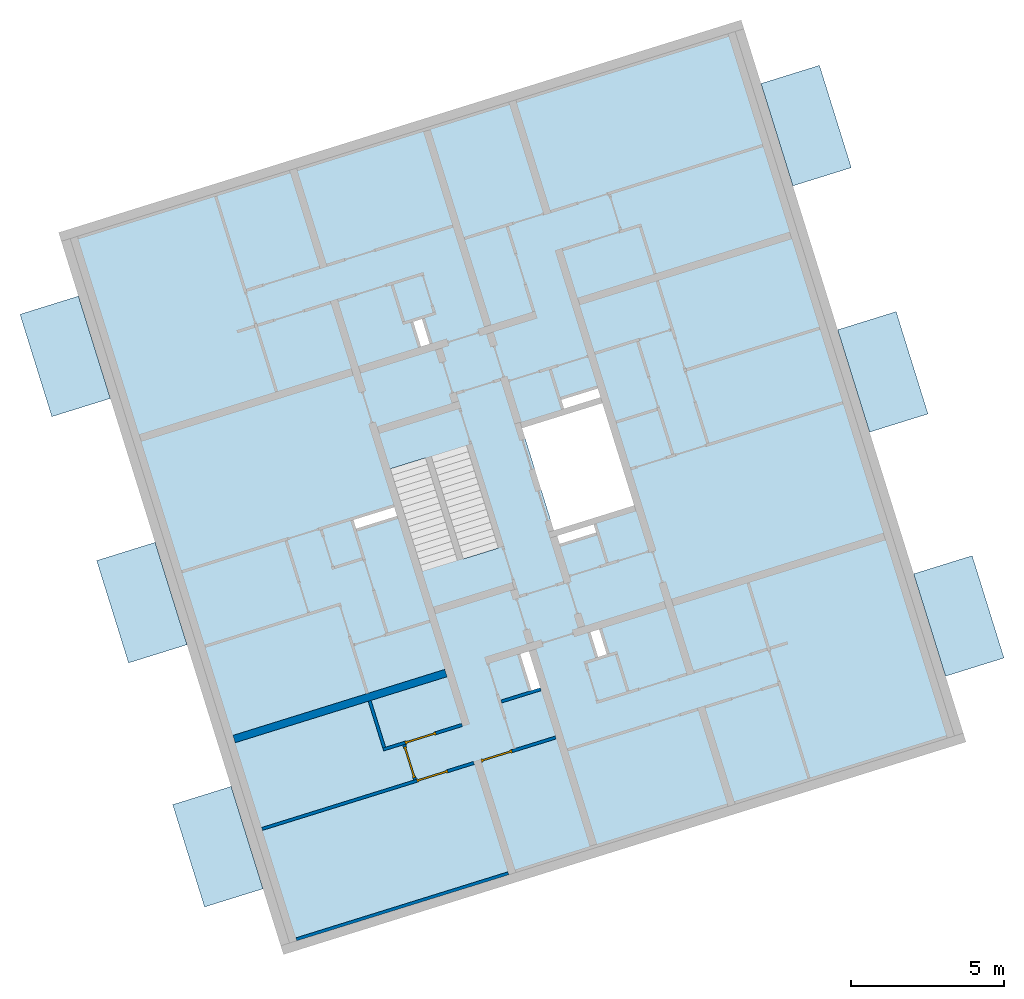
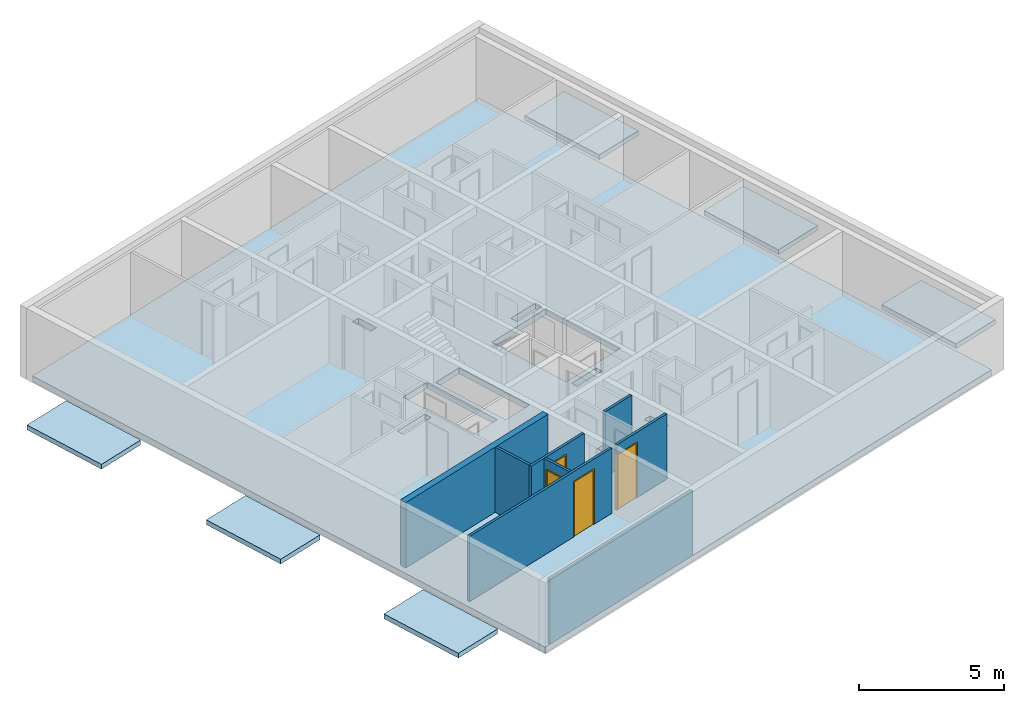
# One storey, part 1 of 9: 8 walls, 7 slabs, 4 doors, 13 openings.
"""IFC4 building model written with IfcOpenShell, lengths in metres."""

from ifc_helpers import new_model, entity, si_unit, converted_unit, direction, frame, origin, place, context, subcontext, project, spatial, indexed_curve, outline, extrude, polygons, source, transform, mapped, material, constituent, constituent_set, type_object, type_shapes, element, fill, save


model = new_model("IFC4")

# Units and contexts
model_context = context("Model", 3, precision=1e-05, world=origin(), true_north=direction((6.12323399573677e-17, 1.0)))
body_context = subcontext(model_context, "Body", "Model", "MODEL_VIEW")
ifc_project = project(units=[si_unit("LENGTHUNIT", "METRE"), si_unit("AREAUNIT", "SQUARE_METRE"), converted_unit("PLANEANGLEUNIT", "DEGREE", entity("IfcPlaneAngleMeasure", 0.0174532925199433), si_unit("PLANEANGLEUNIT", "RADIAN"), dimensions=[0, 0, 0, 0, 0, 0, 0]), si_unit("VOLUMEUNIT", "CUBIC_METRE")], contexts=[model_context])

# Site, building, storey
site_placement = place(None, frame((13.1347999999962, 11.9886000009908, 0.0), z_axis=(0.0, 0.0, 1.0), x_axis=(0.954770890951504, 0.297342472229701, 0.0)))
site = spatial("IfcSite", under=ifc_project, at=site_placement, Name="Schiehaven", CompositionType="ELEMENT")
building_placement = place(site_placement, origin())
building = spatial("IfcBuilding", under=site, at=building_placement, Name="VORM huis", CompositionType="ELEMENT")
storey_placement = place(building_placement, frame((0.0, 0.0, 18.9)))
storey = spatial("IfcBuildingStorey", under=building, at=storey_placement, Name="06 zesde verdieping", CompositionType="ELEMENT", Elevation=18.9)

# Slab, openings
ifc_material_1 = material(Name="beton_gewapend_ihw", Category="Miscellaneous")
slab_type_1 = type_object("IfcSlabType", Name="Floor:28_FL_skelet_vloer 250mm", PredefinedType="FLOOR", material=ifc_material_1)
slab_1_placement = place(storey_placement, origin())
slab_1 = element("IfcSlab", 1, at=slab_1_placement, inside=storey, type_object=slab_type_1, material=ifc_material_1, Name="Constructieve vloer", ObjectType="Vloer", PredefinedType="FLOOR", context=body_context, shape_type="SweptSolid", body=[
    extrude(outline(indexed_curve([(-12.0499999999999, -11.375), (12.05, -11.375), (12.0499999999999, 11.375), (-12.05, 11.375), (-12.0499999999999, -11.375)], self_intersect=False), holes=[indexed_curve([(1.75000000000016, 3.6250000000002), (1.75000000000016, 0.875000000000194), (-1.74999999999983, 0.875000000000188), (-1.74999999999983, 3.6250000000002), (1.75000000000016, 3.6250000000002)], self_intersect=False), indexed_curve([(-1.53999999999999, -2.22499999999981), (-1.53999999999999, -1.02499999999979), (1.76000000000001, -1.02499999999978), (1.76000000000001, -2.2249999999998), (-1.53999999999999, -2.22499999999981)], self_intersect=False), indexed_curve([(1.54000000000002, -3.62499999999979), (-1.75999999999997, -3.62499999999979), (-1.75999999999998, -2.42499999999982), (1.54000000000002, -2.42499999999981), (1.54000000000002, -3.62499999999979)], self_intersect=False), indexed_curve([(5.27499999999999, 1.02499999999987), (5.27499999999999, 1.32499999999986), (6.12499999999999, 1.32499999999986), (6.125, 1.02499999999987), (5.27499999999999, 1.02499999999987)], self_intersect=False), indexed_curve([(-6.12500000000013, -1.18400000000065), (-5.27500000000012, -1.18400000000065), (-5.27500000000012, -1.48400000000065), (-6.12500000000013, -1.48400000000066), (-6.12500000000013, -1.18400000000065)], self_intersect=False), indexed_curve([(5.27500000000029, -1.07500000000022), (6.52500000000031, -1.07500000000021), (6.52500000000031, -1.37500000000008), (5.27500000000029, -1.37500000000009), (5.27500000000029, -1.07500000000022)], self_intersect=False), indexed_curve([(-0.524999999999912, -3.87283572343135), (-0.224999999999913, -3.87283572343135), (-0.224999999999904, -5.27500000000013), (-0.524999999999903, -5.27500000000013), (-0.524999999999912, -3.87283572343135)], self_intersect=False), indexed_curve([(1.95000000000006, 2.17499999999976), (2.22500000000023, 2.17499999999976), (2.22500000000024, 0.924999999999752), (1.95000000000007, 0.92499999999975), (1.95000000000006, 2.17499999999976)], self_intersect=False), indexed_curve([(-2.25000000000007, 3.62499999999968), (-1.94999999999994, 3.62499999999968), (-1.94999999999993, 2.37499999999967), (-2.25000000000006, 2.37499999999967), (-2.25000000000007, 3.62499999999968)], self_intersect=False)]), frame((68.7500000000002, 17.0499999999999, -0.249999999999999), z_axis=(0.0, 0.0, 1.0), x_axis=(0.0, -1.0, 0.0)), (0.0, 0.0, 1.0), 0.249999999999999),
])
opening_1_placement = place(slab_1_placement, origin())
element("IfcOpeningElement", 2, at=opening_1_placement, cuts=slab_1, Name="Constructieve vloer", PredefinedType="OPENING", context=body_context, shape_type="SweptSolid", body=[
    extrude(outline(indexed_curve([(-1.75, -1.375), (1.75, -1.375), (1.75, 1.37500000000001), (-1.75, 1.37500000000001), (-1.75, -1.375)], self_intersect=False)), frame((71.0, 17.0499999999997, -0.249999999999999), z_axis=(0.0, 0.0, 1.0), x_axis=(0.0, 1.0, 0.0)), (0.0, 0.0, 1.0), 0.249999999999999),
])
opening_2_placement = place(slab_1_placement, origin())
element("IfcOpeningElement", 3, at=opening_2_placement, cuts=slab_1, Name="Constructieve vloer", PredefinedType="OPENING", context=body_context, shape_type="SweptSolid", body=[
    extrude(outline(indexed_curve([(-1.65, -0.600000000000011), (1.65000000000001, -0.600000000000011), (1.65000000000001, 0.600000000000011), (-1.65, 0.600000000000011), (-1.65, -0.600000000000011)], self_intersect=False)), frame((67.1250000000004, 16.9399999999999, -0.249999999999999), z_axis=(0.0, 0.0, 1.0), x_axis=(0.0, -1.0, 0.0)), (0.0, 0.0, 1.0), 0.249999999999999),
])
opening_3_placement = place(slab_1_placement, origin())
element("IfcOpeningElement", 4, at=opening_3_placement, cuts=slab_1, Name="Constructieve vloer", PredefinedType="OPENING", context=body_context, shape_type="SweptSolid", body=[
    extrude(outline(indexed_curve([(-0.425000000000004, -0.150000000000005), (0.425000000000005, -0.150000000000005), (0.425000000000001, 0.149999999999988), (-0.425000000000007, 0.149999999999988), (-0.425000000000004, -0.150000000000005)], self_intersect=False)), frame((69.925, 11.3499999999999, -0.249999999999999), z_axis=(0.0, 0.0, 1.0), x_axis=(0.0, -1.0, 0.0)), (0.0, 0.0, 1.0), 0.249999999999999),
])
opening_4_placement = place(slab_1_placement, origin())
element("IfcOpeningElement", 5, at=opening_4_placement, cuts=slab_1, Name="Constructieve vloer", PredefinedType="OPENING", context=body_context, shape_type="SweptSolid", body=[
    extrude(outline(indexed_curve([(-0.150000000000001, -0.425000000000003), (0.150000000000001, -0.425000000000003), (0.150000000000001, 0.425000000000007), (-0.150000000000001, 0.425000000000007), (-0.150000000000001, -0.425000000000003)], self_intersect=False)), frame((67.4159999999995, 22.7500000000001, -0.249999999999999), z_axis=(0.0, 0.0, 1.0), x_axis=(-1.0, 0.0, 0.0)), (0.0, 0.0, 1.0), 0.249999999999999),
])
opening_5_placement = place(slab_1_placement, origin())
element("IfcOpeningElement", 6, at=opening_5_placement, cuts=slab_1, Name="Constructieve vloer", PredefinedType="OPENING", context=body_context, shape_type="SweptSolid", body=[
    extrude(outline(indexed_curve([(-0.14999999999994, -0.625000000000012), (0.149999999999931, -0.625000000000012), (0.149999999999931, 0.625000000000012), (-0.14999999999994, 0.625000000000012), (-0.14999999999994, -0.625000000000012)], self_intersect=False)), frame((67.525, 11.1499999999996, -0.249999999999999), z_axis=(0.0, 0.0, 1.0), x_axis=(-1.0, 0.0, 0.0)), (0.0, 0.0, 1.0), 0.249999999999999),
])
opening_6_placement = place(slab_1_placement, origin())
element("IfcOpeningElement", 7, at=opening_6_placement, cuts=slab_1, Name="Constructieve vloer", PredefinedType="OPENING", context=body_context, shape_type="SweptSolid", body=[
    extrude(outline(indexed_curve([(-0.701082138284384, -0.150000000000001), (0.701082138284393, -0.150000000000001), (0.701082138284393, 0.149999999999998), (-0.701082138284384, 0.149999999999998), (-0.701082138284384, -0.150000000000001)], self_intersect=False)), frame((64.1760821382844, 17.4249999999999, -0.249999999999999), z_axis=(0.0, 0.0, 1.0), x_axis=(-1.0, 0.0, 0.0)), (0.0, 0.0, 1.0), 0.249999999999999),
])
opening_7_placement = place(slab_1_placement, origin())
element("IfcOpeningElement", 8, at=opening_7_placement, cuts=slab_1, Name="Constructieve vloer", PredefinedType="OPENING", context=body_context, shape_type="SweptSolid", body=[
    extrude(outline(indexed_curve([(-0.625000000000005, -0.137500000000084), (0.625000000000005, -0.137500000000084), (0.625000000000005, 0.137500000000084), (-0.625000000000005, 0.137500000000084), (-0.625000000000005, -0.137500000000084)], self_intersect=False)), frame((70.2999999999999, 14.9624999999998, -0.249999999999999), z_axis=(0.0, 0.0, 1.0), x_axis=(-1.0, 0.0, 0.0)), (0.0, 0.0, 1.0), 0.249999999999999),
])
opening_8_placement = place(slab_1_placement, origin())
element("IfcOpeningElement", 9, at=opening_8_placement, cuts=slab_1, Name="Constructieve vloer", PredefinedType="OPENING", context=body_context, shape_type="SweptSolid", body=[
    extrude(outline(indexed_curve([(-0.625000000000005, -0.150000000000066), (0.625000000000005, -0.150000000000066), (0.625000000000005, 0.150000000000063), (-0.625000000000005, 0.150000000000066), (-0.625000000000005, -0.150000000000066)], self_intersect=False)), frame((71.7499999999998, 19.1499999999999, -0.249999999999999), z_axis=(0.0, 0.0, 1.0), x_axis=(-1.0, 0.0, 0.0)), (0.0, 0.0, 1.0), 0.249999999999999),
])

# Slabs
ifc_material_2 = material(Name="beton_gewapend_prefab-element", Category="Miscellaneous")
slab_type_2 = type_object("IfcSlabType", Name="Floor:23_FL_skelet_balkon 200mm", PredefinedType="FLOOR", material=ifc_material_2)
slab_2_placement = place(storey_placement, origin())
element("IfcSlab", 10, at=slab_2_placement, inside=storey, type_object=slab_type_2, material=ifc_material_2, Name="Balkonvloer", ObjectType="Vloer", PredefinedType="FLOOR", context=body_context, shape_type="SweptSolid", body=[
    extrude(outline(indexed_curve([(-1.75000000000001, -0.999999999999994), (1.75, -0.999999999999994), (1.75000000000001, 1.0), (-1.75, 0.999999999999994), (-1.75000000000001, -0.999999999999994)], self_intersect=False)), frame((56.0750000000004, 25.4750000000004, 0.0), z_axis=(0.0, 0.0, -1.0), x_axis=(0.0, 1.0, 0.0)), (0.0, 0.0, 1.0), 0.2),
])
slab_3_placement = place(storey_placement, origin())
element("IfcSlab", 11, at=slab_3_placement, inside=storey, type_object=slab_type_2, material=ifc_material_2, Name="Balkonvloer", ObjectType="Vloer", PredefinedType="FLOOR", context=body_context, shape_type="SweptSolid", body=[
    extrude(outline(indexed_curve([(-1.75000000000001, -0.999999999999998), (1.75000000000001, -0.999999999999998), (1.75000000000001, 0.999999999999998), (-1.75000000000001, 0.999999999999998), (-1.75000000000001, -0.999999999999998)], self_intersect=False)), frame((56.0750000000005, 8.69999999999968, 0.0), z_axis=(0.0, 0.0, -1.0), x_axis=(0.0, 1.0, 0.0)), (0.0, 0.0, 1.0), 0.2),
])
slab_4_placement = place(storey_placement, origin())
element("IfcSlab", 12, at=slab_4_placement, inside=storey, type_object=slab_type_2, material=ifc_material_2, Name="Balkonvloer", ObjectType="Vloer", PredefinedType="FLOOR", context=body_context, shape_type="SweptSolid", body=[
    extrude(outline(indexed_curve([(-1.75000000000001, -1.0), (1.75000000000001, -1.0), (1.75000000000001, 0.999999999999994), (-1.75000000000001, 0.999999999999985), (-1.75000000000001, -1.0)], self_intersect=False)), frame((56.0750000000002, 17.0499999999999, 0.0), z_axis=(0.0, 0.0, -1.0), x_axis=(0.0, 1.0, 0.0)), (0.0, 0.0, 1.0), 0.2),
])
slab_5_placement = place(storey_placement, origin())
element("IfcSlab", 13, at=slab_5_placement, inside=storey, type_object=slab_type_2, material=ifc_material_2, Name="Balkonvloer", ObjectType="Vloer", PredefinedType="FLOOR", context=body_context, shape_type="SweptSolid", body=[
    extrude(outline(indexed_curve([(-1.75000000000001, -0.999999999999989), (1.75000000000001, -0.999999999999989), (1.75, 1.00000000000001), (-1.75000000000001, 0.999999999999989), (-1.75000000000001, -0.999999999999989)], self_intersect=False)), frame((81.4249999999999, 25.4750000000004, 0.0), z_axis=(0.0, 0.0, -1.0), x_axis=(0.0, 1.0, 0.0)), (0.0, 0.0, 1.0), 0.2),
])
slab_6_placement = place(storey_placement, origin())
element("IfcSlab", 14, at=slab_6_placement, inside=storey, type_object=slab_type_2, material=ifc_material_2, Name="Balkonvloer", ObjectType="Vloer", PredefinedType="FLOOR", context=body_context, shape_type="SweptSolid", body=[
    extrude(outline(indexed_curve([(-1.74999999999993, -0.999999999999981), (1.75000000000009, -0.999999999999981), (1.74999999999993, 0.999999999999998), (-1.75000000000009, 0.999999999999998), (-1.74999999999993, -0.999999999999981)], self_intersect=False)), frame((81.4250000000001, 8.69999999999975, 0.0), z_axis=(0.0, 0.0, -1.0), x_axis=(0.0, 1.0, 0.0)), (0.0, 0.0, 1.0), 0.2),
])
slab_7_placement = place(storey_placement, origin())
element("IfcSlab", 15, at=slab_7_placement, inside=storey, type_object=slab_type_2, material=ifc_material_2, Name="Balkonvloer", ObjectType="Vloer", PredefinedType="FLOOR", context=body_context, shape_type="SweptSolid", body=[
    extrude(outline(indexed_curve([(-1.74999999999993, -0.999999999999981), (1.75000000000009, -0.999999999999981), (1.74999999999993, 0.999999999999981), (-1.75000000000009, 0.999999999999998), (-1.74999999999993, -0.999999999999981)], self_intersect=False)), frame((81.4250000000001, 17.0499999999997, 0.0), z_axis=(0.0, 0.0, -1.0), x_axis=(0.0, 1.0, 0.0)), (0.0, 0.0, 1.0), 0.2),
])

# Walls
ifc_material_3 = material(Name="ntb_ntb_ntb", Category="Miscellaneous")
wall_type_1 = type_object("IfcWallType", Name="Basic Wall:21_WA_gevel_binnenspouwwand 100mm_gen", PredefinedType="STANDARD")
wall_1_placement = place(storey_placement, frame((64.8750000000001, 5.0499999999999, 0.0), z_axis=(0.0, 0.0, 1.0), x_axis=(-1.0, 0.0, 0.0)))
element("IfcWall", 16, at=wall_1_placement, inside=storey, type_object=wall_type_1, material=ifc_material_3, Name="Binnenspouwblad", ObjectType="Wand", PredefinedType="NOTDEFINED", context=body_context, shape_type="SweptSolid", body=[
    extrude(outline(indexed_curve([(7.24999999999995, 0.0500000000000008), (5.48749790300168e-18, 0.0500000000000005), (-5.48749790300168e-18, -0.0500000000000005), (7.24999999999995, -0.0500000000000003), (7.24999999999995, 0.0500000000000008)], self_intersect=False)), origin(), (0.0, 0.0, 1.0), 2.75),
])
wall_type_2 = type_object("IfcWallType", Name="Basic Wall:22_WA_afbouw_binnenwand 250mm_gen", PredefinedType="STANDARD")
wall_2_placement = place(storey_placement, frame((64.8750000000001, 11.8999999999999, 0.0), z_axis=(0.0, 0.0, 1.0), x_axis=(-1.0, 0.0, 0.0)))
element("IfcWall", 17, at=wall_2_placement, inside=storey, type_object=wall_type_2, material=ifc_material_3, Name="Binnenwand", ObjectType="Wand", PredefinedType="NOTDEFINED", context=body_context, shape_type="SweptSolid", body=[
    extrude(outline(indexed_curve([(7.24999999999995, 0.125000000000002), (-2.56336468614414e-16, 0.125), (2.56336468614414e-16, -0.125), (7.24999999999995, -0.124999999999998), (7.24999999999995, 0.125000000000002)], self_intersect=False)), origin(), (0.0, 0.0, 1.0), 2.75),
])
wall_type_3 = type_object("IfcWallType", Name="Basic Wall:22_WA_afbouw_binnenwand 100mm_gen", PredefinedType="STANDARD")
wall_3_placement = place(storey_placement, frame((67.6749999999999, 10.4749999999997, 0.0), z_axis=(0.0, 0.0, 1.0), x_axis=(-1.0, 0.0, 0.0)))
element("IfcWall", 18, at=wall_3_placement, inside=storey, type_object=wall_type_3, material=ifc_material_3, Name="Binnenwand", ObjectType="Wand", PredefinedType="NOTDEFINED", context=body_context, shape_type="SweptSolid", body=[
    extrude(outline(indexed_curve([(1.34999999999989, 0.0499999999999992), (8.93476767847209e-18, 0.0499999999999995), (-8.93476767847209e-18, -0.0499999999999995), (1.34999999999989, -0.0499999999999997), (1.34999999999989, 0.0499999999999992)], self_intersect=False)), origin(), (0.0, 0.0, 1.0), 2.75),
])

# Wall, opening, door
wall_4_placement = place(storey_placement, frame((62.175, 10.1249999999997, 0.0)))
wall_4 = element("IfcWall", 19, at=wall_4_placement, inside=storey, type_object=wall_type_3, material=ifc_material_3, Name="Binnenwand", ObjectType="Wand", PredefinedType="NOTDEFINED", context=body_context, shape_type="Tessellation", body=[
    polygons([(2.96937021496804e-15, -0.0499999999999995, 2.16573425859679e-15), (0.650000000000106, -0.0499999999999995, 2.16573425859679e-15), (0.750000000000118, -0.0499999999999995, 2.16573425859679e-15), (0.750000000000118, -0.0499999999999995, 2.34999999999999), (1.80000000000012, -0.0499999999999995, 2.34999999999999), (1.80000000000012, -0.0499999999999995, 2.16573425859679e-15), (2.69999999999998, -0.0499999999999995, 2.16573425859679e-15), (2.69999999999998, -0.0499999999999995, 2.75), (0.75000000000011, -0.0499999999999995, 2.75), (0.650000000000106, -0.0499999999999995, 2.75), (2.96937021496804e-15, -0.0499999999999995, 2.75), (0.750000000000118, 0.0499999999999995, 2.34999999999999), (0.750000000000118, 0.0499999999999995, 2.16573425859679e-15), (0.100000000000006, 0.0499999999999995, 2.16573425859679e-15), (2.9128583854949e-15, 0.0499999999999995, 2.16573425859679e-15), (2.9128583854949e-15, 0.0499999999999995, 2.75), (0.100000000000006, 0.0499999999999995, 2.75), (2.69999999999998, 0.0499999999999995, 2.75), (2.69999999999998, 0.0499999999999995, 2.16573425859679e-15), (1.80000000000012, 0.0499999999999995, 2.16573425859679e-15), (1.80000000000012, 0.0499999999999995, 2.34999999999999)], [[[1, 2, 3, 4, 5, 6, 7, 8, 9, 10, 11]], [[12, 13, 14, 15, 16, 17, 18, 19, 20, 21]], [[15, 14, 13, 3, 2, 1]], [[8, 7, 19, 18]], [[11, 10, 9, 8, 18, 17, 16]], [[6, 5, 21, 20]], [[4, 3, 13, 12]], [[5, 4, 12, 21]], [[1, 11, 16, 15]], [[20, 19, 7, 6]]], closed=True),
])
opening_9_placement = place(wall_4_placement, frame((1.80000000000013, 0.0499999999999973, 0.0)))
opening_9 = element("IfcOpeningElement", 20, at=opening_9_placement, cuts=wall_4, Name="Binnendeur", PredefinedType="OPENING", context=body_context, shape_type="SweptSolid", body=[
    extrude(outline(indexed_curve([(2.34999999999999, 0.0), (2.34999999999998, 1.05), (0.0, 1.05), (2.16573425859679e-15, 0.0), (2.34999999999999, 0.0)], self_intersect=False)), frame((0.0, 0.0, 0.0), z_axis=(0.0, -1.0, 0.0), x_axis=(0.0, 0.0, 1.0)), (0.0, 0.0, 1.0), 0.1),
])
ifc_material_4 = material(Name="PD_a_binnenwandopeningen", Category="Miscellaneous")
ifc_constituent_1 = constituent(ifc_material_4, Name="PD_a_binnenwandopeningen", Category="Miscellaneous")
ifc_material_5 = material(Name="metaal_aluminium_ntb", Category="Miscellaneous")
ifc_constituent_2 = constituent(ifc_material_5, Name="metaal_aluminium_ntb", Category="Miscellaneous")
ifc_constituent_set_1 = constituent_set(constituents=[ifc_constituent_1, ifc_constituent_2])
ifc_constituent_3 = constituent(ifc_material_4, Name="PD_a_binnenwandopeningen", Category="Miscellaneous")
ifc_constituent_4 = constituent(ifc_material_5, Name="Panel", Category="Miscellaneous")
ifc_constituent_set_2 = constituent_set(constituents=[ifc_constituent_3, ifc_constituent_4])
door_type_1 = type_object("IfcDoorType", Name="32_DO_binnendeur enkel:binnendeur", OperationType="REVOLVING", PredefinedType="DOOR", material=ifc_constituent_set_2)
shared_shape_1 = source(origin(), body_context, "Body", "SweptSolid", [
    extrude(outline(indexed_curve([(0.475, -1.16249999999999), (0.525, -1.16249999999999), (0.525, 1.18749999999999), (-0.525, 1.18749999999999), (-0.525, -1.16249999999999), (-0.475, -1.16249999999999), (-0.475, 1.13749999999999), (0.475, 1.13749999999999), (0.475, -1.16249999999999)], self_intersect=False)), frame((0.525000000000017, 0.100000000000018, 1.16249999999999), z_axis=(0.0, -1.0, 0.0), x_axis=(1.0, 0.0, 0.0)), (0.0, 0.0, 1.0), 0.1),
    extrude(outline(indexed_curve([(-0.475, -0.025), (0.475, -0.025), (0.475, 0.025), (-0.475, 0.025), (-0.475, -0.025)], self_intersect=False)), frame((0.525000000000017, 0.0499999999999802, 0.0)), (0.0, 0.0, 1.0), 2.29999999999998),
])
type_shapes(door_type_1, [shared_shape_1])
door_1_placement = place(opening_9_placement, frame((0.0, 0.0, 0.0), z_axis=(0.0, 0.0, 1.0), x_axis=(-1.0, 0.0, 0.0)))
door_1 = element("IfcDoor", 21, at=door_1_placement, inside=storey, type_object=door_type_1, material=ifc_constituent_set_1, Name="Binnendeur", ObjectType="Deur", OperationType="REVOLVING", OverallHeight=2.34999999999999, OverallWidth=1.05, PredefinedType="DOOR", context=body_context, shape_type="MappedRepresentation", body=[
    mapped(shared_shape_1, transform((0.0, 0.0, 0.0), scale=1.0)),
])
fill(opening_9, door_1)

wall_5_placement = place(storey_placement, frame((57.625, 8.82499999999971, 0.0)))
wall_5 = element("IfcWall", 22, at=wall_5_placement, inside=storey, type_object=wall_type_3, material=ifc_material_3, Name="Binnenwand", ObjectType="Wand", PredefinedType="NOTDEFINED", context=body_context, shape_type="Tessellation", body=[
    polygons([(6.35000000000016, -0.0500000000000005, 2.34999999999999), (6.35000000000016, -0.0500000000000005, 2.16573425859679e-15), (7.25000000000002, -0.0500000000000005, 2.16573425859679e-15), (7.25000000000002, -0.0500000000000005, 2.75), (3.70402399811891e-15, -0.0500000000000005, 2.75), (3.70402399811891e-15, -0.0500000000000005, 2.16573425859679e-15), (5.30000000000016, -0.0500000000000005, 2.16573425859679e-15), (5.30000000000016, -0.0500000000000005, 2.34999999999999), (7.25000000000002, 0.0499999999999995, 2.16573425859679e-15), (6.35000000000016, 0.0499999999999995, 2.16573425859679e-15), (6.35000000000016, 0.0499999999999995, 2.34999999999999), (5.30000000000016, 0.0499999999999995, 2.34999999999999), (5.30000000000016, 0.0499999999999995, 2.16573425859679e-15), (5.20000000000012, 0.0499999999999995, 2.16573425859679e-15), (3.64751216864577e-15, 0.0499999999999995, 2.16573425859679e-15), (3.64751216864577e-15, 0.0499999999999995, 2.75), (5.20000000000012, 0.0499999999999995, 2.75), (5.30000000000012, 0.0499999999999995, 2.75), (7.25000000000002, 0.0499999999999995, 2.75)], [[[1, 2, 3, 4, 5, 6, 7, 8]], [[9, 10, 11, 12, 13, 14, 15, 16, 17, 18, 19]], [[7, 6, 15, 14, 13]], [[4, 3, 9, 19]], [[5, 4, 19, 18, 17, 16]], [[6, 5, 16, 15]], [[13, 12, 8, 7]], [[11, 10, 2, 1]], [[12, 11, 1, 8]], [[3, 2, 10, 9]]], closed=True),
])
opening_10_placement = place(wall_5_placement, frame((5.30000000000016, -0.0500000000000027, 0.0)))
opening_10 = element("IfcOpeningElement", 23, at=opening_10_placement, cuts=wall_5, Name="Binnendeur", PredefinedType="OPENING", context=body_context, shape_type="SweptSolid", body=[
    extrude(outline(indexed_curve([(2.34999999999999, 0.0), (2.34999999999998, 1.05), (0.0, 1.05), (2.16573425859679e-15, 0.0), (2.34999999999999, 0.0)], self_intersect=False)), frame((0.0, 0.0, 0.0), z_axis=(0.0, 1.0, 0.0), x_axis=(0.0, 0.0, 1.0)), (0.0, 0.0, 1.0), 0.1),
])
ifc_constituent_5 = constituent(ifc_material_4, Name="PD_a_binnenwandopeningen", Category="Miscellaneous")
ifc_constituent_6 = constituent(ifc_material_5, Name="metaal_aluminium_ntb", Category="Miscellaneous")
ifc_constituent_set_3 = constituent_set(constituents=[ifc_constituent_5, ifc_constituent_6])
door_2_placement = place(opening_10_placement, origin())
door_2 = element("IfcDoor", 24, at=door_2_placement, inside=storey, type_object=door_type_1, material=ifc_constituent_set_3, Name="Binnendeur", ObjectType="Deur", OperationType="REVOLVING", OverallHeight=2.34999999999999, OverallWidth=1.05, PredefinedType="DOOR", context=body_context, shape_type="MappedRepresentation", body=[
    mapped(shared_shape_1, transform((0.0, 0.0, 0.0), scale=1.0)),
])
fill(opening_10, door_2)

# Wall
wall_6_placement = place(storey_placement, frame((62.225, 10.1749999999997, 0.0), z_axis=(0.0, 0.0, 1.0), x_axis=(0.0, 1.0, 0.0)))
element("IfcWall", 25, at=wall_6_placement, inside=storey, type_object=wall_type_3, material=ifc_material_3, Name="Binnenwand", ObjectType="Wand", PredefinedType="NOTDEFINED", context=body_context, shape_type="SweptSolid", body=[
    extrude(outline(indexed_curve([(1.6000000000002, 0.0499999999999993), (-6.12369559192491e-17, 0.0499999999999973), (6.12369559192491e-17, -0.0499999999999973), (1.6000000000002, -0.0499999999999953), (1.6000000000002, 0.0499999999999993)], self_intersect=False)), origin(), (0.0, 0.0, 1.0), 2.75),
])

# Wall, opening, door
wall_7_placement = place(storey_placement, frame((62.8750000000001, 10.0749999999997, 0.0), z_axis=(0.0, 0.0, 1.0), x_axis=(0.0, -1.0, 0.0)))
wall_7 = element("IfcWall", 26, at=wall_7_placement, inside=storey, type_object=wall_type_3, material=ifc_material_3, Name="Binnenwand", ObjectType="Wand", PredefinedType="NOTDEFINED", context=body_context, shape_type="Tessellation", body=[
    polygons([(1.2, -0.0499999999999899, 2.75), (2.16573425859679e-15, -0.0500000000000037, 2.75), (2.16573425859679e-15, -0.0500000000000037, 2.16573425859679e-15), (0.0799999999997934, -0.0500000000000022, 2.16573425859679e-15), (0.0799999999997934, -0.0500000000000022, 2.34999999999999), (1.12999999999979, -0.0499999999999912, 2.34999999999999), (1.12999999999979, -0.0499999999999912, 2.16573425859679e-15), (1.2, -0.0499999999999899, 2.16573425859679e-15), (0.0, 0.0499999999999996, 2.75), (1.19999999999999, 0.0500000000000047, 2.75), (1.19999999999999, 0.0500000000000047, 2.34999999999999), (1.19999999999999, 0.0500000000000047, 2.16573425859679e-15), (1.12999999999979, 0.0500000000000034, 2.16573425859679e-15), (1.12999999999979, 0.0500000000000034, 2.34999999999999), (0.0799999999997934, 0.0500000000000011, 2.34999999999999), (0.0799999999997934, 0.0500000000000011, 2.16573425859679e-15), (0.0, 0.0499999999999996, 2.16573425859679e-15), (0.0, 0.0499999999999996, 2.34999999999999)], [[[1, 2, 3, 4, 5, 6, 7, 8]], [[9, 10, 11, 12, 13, 14, 15, 16, 17, 18]], [[3, 17, 16, 4]], [[2, 1, 10, 9]], [[6, 14, 13, 7]], [[14, 6, 5, 15]], [[15, 5, 4, 16]], [[1, 8, 12, 11, 10]], [[3, 2, 9, 18, 17]], [[12, 8, 7, 13]]], closed=True),
])
opening_11_placement = place(wall_7_placement, frame((0.0799999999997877, -0.0499999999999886, 0.0)))
opening_11 = element("IfcOpeningElement", 27, at=opening_11_placement, cuts=wall_7, Name="Binnendeur", PredefinedType="OPENING", context=body_context, shape_type="SweptSolid", body=[
    extrude(outline(indexed_curve([(2.34999999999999, 1.05), (0.0, 1.05), (0.0, 1.35358391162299e-15), (2.34999999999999, 1.35358391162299e-15), (2.34999999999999, 1.05)], self_intersect=False)), frame((0.0, 0.0, 0.0), z_axis=(0.0, 1.0, 0.0), x_axis=(0.0, 0.0, 1.0)), (0.0, 0.0, 1.0), 0.1),
])
ifc_constituent_7 = constituent(ifc_material_4, Name="PD_a_binnenwandopeningen", Category="Miscellaneous")
ifc_constituent_8 = constituent(ifc_material_5, Name="metaal_aluminium_ntb", Category="Miscellaneous")
ifc_constituent_set_4 = constituent_set(constituents=[ifc_constituent_7, ifc_constituent_8])
ifc_constituent_9 = constituent(ifc_material_4, Name="PD_a_binnenwandopeningen", Category="Miscellaneous")
ifc_constituent_10 = constituent(ifc_material_5, Name="Panel", Category="Miscellaneous")
ifc_constituent_set_5 = constituent_set(constituents=[ifc_constituent_9, ifc_constituent_10])
door_type_2 = type_object("IfcDoorType", Name="32_DO_binnendeur enkel:binnendeur", OperationType="REVOLVING", PredefinedType="DOOR", material=ifc_constituent_set_5)
shared_shape_2 = source(origin(), body_context, "Body", "SweptSolid", [
    extrude(outline(indexed_curve([(-1.16249999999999, -0.525000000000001), (1.18749999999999, -0.525), (1.18749999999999, 0.525), (-1.16249999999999, 0.525), (-1.16249999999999, 0.475), (1.13749999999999, 0.475), (1.13749999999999, -0.475), (-1.16249999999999, -0.475), (-1.16249999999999, -0.525000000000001)], self_intersect=False)), frame((0.525000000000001, 0.0, 1.16249999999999), z_axis=(0.0, 1.0, 0.0), x_axis=(0.0, 0.0, 1.0)), (0.0, 0.0, 1.0), 0.1),
    extrude(outline(indexed_curve([(-0.025, -0.475), (0.025, -0.475), (0.025, 0.475), (-0.025, 0.475), (-0.025, -0.475)], self_intersect=False)), frame((0.525000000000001, 0.0499999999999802, 0.0), z_axis=(0.0, 0.0, 1.0), x_axis=(0.0, 1.0, 0.0)), (0.0, 0.0, 1.0), 2.29999999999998),
])
type_shapes(door_type_2, [shared_shape_2])
door_3_placement = place(opening_11_placement, origin())
door_3 = element("IfcDoor", 28, at=door_3_placement, inside=storey, type_object=door_type_2, material=ifc_constituent_set_4, Name="Binnendeur", ObjectType="Deur", OperationType="REVOLVING", OverallHeight=2.34999999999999, OverallWidth=1.05, PredefinedType="DOOR", context=body_context, shape_type="MappedRepresentation", body=[
    mapped(shared_shape_2, transform((0.0, 0.0, 0.0), scale=1.0)),
])
fill(opening_11, door_3)

# Wall, openings, door
wall_8_placement = place(storey_placement, frame((67.6749999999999, 8.82499999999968, 0.0), z_axis=(0.0, 0.0, 1.0), x_axis=(-1.0, 0.0, 0.0)))
wall_8 = element("IfcWall", 29, at=wall_8_placement, inside=storey, type_object=wall_type_3, material=ifc_material_3, Name="Binnenwand", ObjectType="Wand", PredefinedType="NOTDEFINED", context=body_context, shape_type="Tessellation", body=[
    polygons([(2.5499999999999, -0.0500000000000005, 2.75), (1.44999999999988, -0.0500000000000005, 2.75), (1.34999999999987, -0.0500000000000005, 2.75), (-1.58592126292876e-15, -0.0500000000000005, 2.75), (-1.58592126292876e-15, -0.0500000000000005, 2.16573425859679e-15), (1.49999999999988, -0.0500000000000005, 2.16573425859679e-15), (1.49999999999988, -0.0500000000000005, 2.34999999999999), (2.5499999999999, -0.0500000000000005, 2.34999999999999), (-1.56805172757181e-15, 0.0499999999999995, 2.75), (2.5499999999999, 0.0499999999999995, 2.75), (2.5499999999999, 0.0499999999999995, 2.34999999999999), (1.49999999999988, 0.0499999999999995, 2.34999999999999), (1.49999999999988, 0.0499999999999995, 2.16573425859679e-15), (-1.56805172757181e-15, 0.0499999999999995, 2.16573425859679e-15)], [[[1, 2, 3, 4, 5, 6, 7, 8]], [[9, 10, 11, 12, 13, 14]], [[5, 14, 13, 6]], [[10, 1, 8, 11]], [[4, 3, 2, 1, 10, 9]], [[5, 4, 9, 14]], [[12, 7, 6, 13]], [[7, 12, 11, 8]]], closed=True),
])
opening_12_placement = place(wall_8_placement, origin())
element("IfcOpeningElement", 30, at=opening_12_placement, cuts=wall_8, Name="Binnendeur", PredefinedType="OPENING", context=body_context, shape_type="SweptSolid", body=[
    extrude(outline(indexed_curve([(-0.0499999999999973, -1.17499999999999), (0.050000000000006, -1.17499999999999), (0.050000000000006, 1.17499999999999), (-0.0499999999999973, 1.17499999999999), (-0.0499999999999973, -1.17499999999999)], self_intersect=False)), frame((1.39999999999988, -1.10000000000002, 1.17499999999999), z_axis=(0.0, 1.0, 0.0), x_axis=(1.0, 0.0, 0.0)), (0.0, 0.0, 1.0), 1.05),
])
opening_13_placement = place(wall_8_placement, frame((2.54999999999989, 0.0499999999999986, 0.0)))
opening_13 = element("IfcOpeningElement", 31, at=opening_13_placement, cuts=wall_8, Name="Binnendeur", PredefinedType="OPENING", context=body_context, shape_type="SweptSolid", body=[
    extrude(outline(indexed_curve([(2.34999999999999, 3.32583839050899e-32), (2.34999999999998, 1.05), (0.0, 1.05), (2.16573425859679e-15, 3.32583839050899e-32), (2.34999999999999, 3.32583839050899e-32)], self_intersect=False)), frame((0.0, 0.0, 0.0), z_axis=(0.0, -1.0, 0.0), x_axis=(0.0, 0.0, 1.0)), (0.0, 0.0, 1.0), 0.1),
])
ifc_constituent_11 = constituent(ifc_material_4, Name="PD_a_binnenwandopeningen", Category="Miscellaneous")
ifc_constituent_12 = constituent(ifc_material_5, Name="metaal_aluminium_ntb", Category="Miscellaneous")
ifc_constituent_set_6 = constituent_set(constituents=[ifc_constituent_11, ifc_constituent_12])
door_4_placement = place(opening_13_placement, frame((0.0, 0.0, 0.0), z_axis=(0.0, 0.0, 1.0), x_axis=(-1.0, 0.0, 0.0)))
door_4 = element("IfcDoor", 32, at=door_4_placement, inside=storey, type_object=door_type_1, material=ifc_constituent_set_6, Name="Binnendeur", ObjectType="Deur", OperationType="REVOLVING", OverallHeight=2.34999999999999, OverallWidth=1.05, PredefinedType="DOOR", context=body_context, shape_type="MappedRepresentation", body=[
    mapped(shared_shape_1, transform((0.0, 0.0, 0.0), scale=1.0)),
])
fill(opening_13, door_4)

save(model, "model.ifc")
